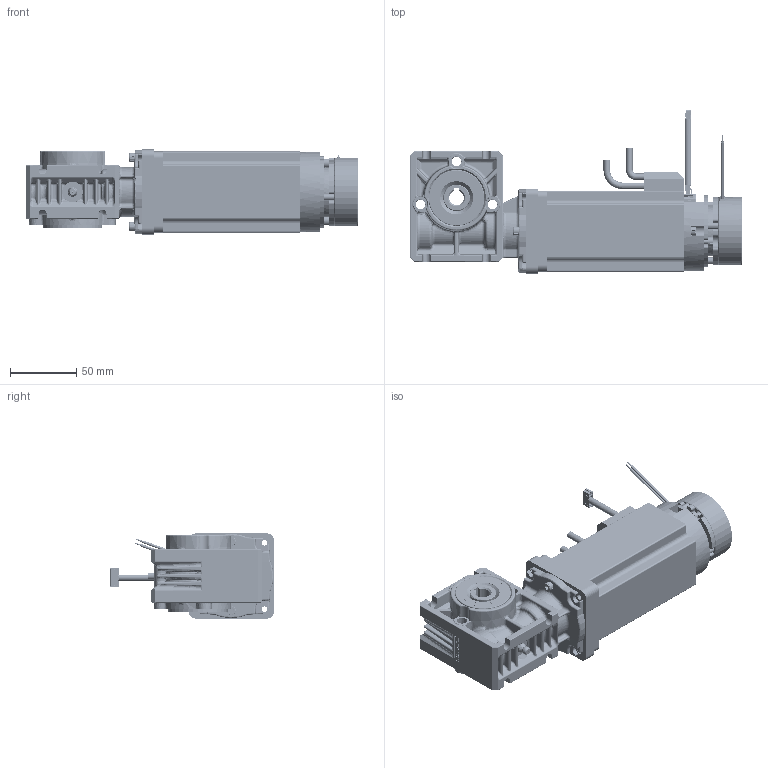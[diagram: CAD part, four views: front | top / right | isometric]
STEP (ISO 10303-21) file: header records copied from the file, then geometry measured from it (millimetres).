
FILE_DESCRIPTION (( 'STEP AP214' ), '1' );
FILE_NAME ('PBL60-70-GB28 - Encoder - Brake.STEP', '2024-09-14T14:00:37', ( '' ), ( '' ), 'SwSTEP 2.0', 'SolidWorks 2023', '' );
FILE_SCHEMA (( 'AUTOMOTIVE_DESIGN' ));
Length unit declared in the file: millimetre
Products named in the file (1): PBL60-70-GB28 - Encoder - Brake
Bounding box: 249.74 x 122.95 x 64 mm (x, y, z)
Volume: 683841 mm3; surface area: 188306.2 mm2
Topology: 46 solids, 46 shells, 7215 faces, 19167 edges, 12208 vertices
Faces by surface type: cylinder 2789, plane 2761, bspline 1006, cone 343, torus 184, sphere 132
Entity records: 364306 total; most frequent: CARTESIAN_POINT 112948, ORIENTED_EDGE 38044, DIRECTION 32927, EDGE_CURVE 19022, VERTEX_POINT 12199, AXIS2_PLACEMENT_3D 11676, VECTOR 9575, LINE 9575
